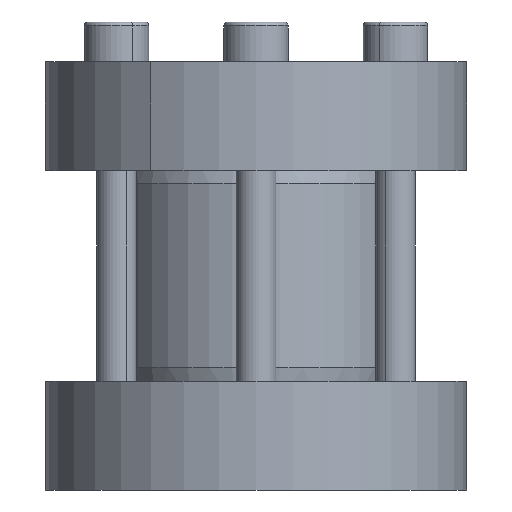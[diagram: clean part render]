
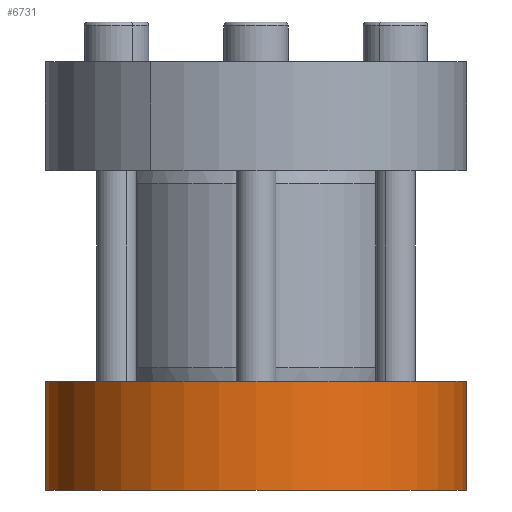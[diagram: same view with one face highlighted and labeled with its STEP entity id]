
A CAD part, front view. The second image highlights one B-rep face of the part: STEP entity #6731.
In plain terms, the highlighted cylindrical face has radius 42.5 mm (diameter 85 mm), a partial arc.
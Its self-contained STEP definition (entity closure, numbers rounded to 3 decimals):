
#962 = AXIS2_PLACEMENT_3D ( 'NONE', #6407, #2119, #7124 ) ;
#1179 = CARTESIAN_POINT ( 'NONE',  ( -42.5, 0., 19.257 ) ) ;
#1578 = VERTEX_POINT ( 'NONE', #1179 ) ;
#1687 = CARTESIAN_POINT ( 'NONE',  ( 42.5, 0., 19.257 ) ) ;
#1749 = ORIENTED_EDGE ( 'NONE', *, *, #8082, .F. ) ;
#2119 = DIRECTION ( 'NONE',  ( 0., 0., 1. ) ) ;
#2166 = DIRECTION ( 'NONE',  ( 0., 0., -1. ) ) ;
#2243 = VERTEX_POINT ( 'NONE', #7117 ) ;
#2482 = CARTESIAN_POINT ( 'NONE',  ( 42.5, 0., -2.743 ) ) ;
#3128 = DIRECTION ( 'NONE',  ( 0., 0., 1. ) ) ;
#3605 = LINE ( 'NONE', #6634, #7182 ) ;
#3816 = DIRECTION ( 'NONE',  ( 0., 0., -1. ) ) ;
#3848 = CIRCLE ( 'NONE', #7099, 42.5 ) ;
#4218 = EDGE_CURVE ( 'NONE', #1578, #2243, #8650, .T. ) ;
#4233 = DIRECTION ( 'NONE',  ( 0., 0., -1. ) ) ;
#4878 = VECTOR ( 'NONE', #2166, 1000. ) ;
#5718 = VERTEX_POINT ( 'NONE', #1687 ) ;
#5824 = VERTEX_POINT ( 'NONE', #2482 ) ;
#5868 = CYLINDRICAL_SURFACE ( 'NONE', #6491, 42.5 ) ;
#6407 = CARTESIAN_POINT ( 'NONE',  ( 0., 0., -2.743 ) ) ;
#6456 = CARTESIAN_POINT ( 'NONE',  ( -42.5, 0., 19.257 ) ) ;
#6491 = AXIS2_PLACEMENT_3D ( 'NONE', #9237, #4233, #8533 ) ;
#6603 = ORIENTED_EDGE ( 'NONE', *, *, #6931, .F. ) ;
#6634 = CARTESIAN_POINT ( 'NONE',  ( 42.5, 0., 19.257 ) ) ;
#6731 = ADVANCED_FACE ( 'NONE', ( #6792 ), #5868, .T. ) ;
#6792 = FACE_OUTER_BOUND ( 'NONE', #8677, .T. ) ;
#6873 = ORIENTED_EDGE ( 'NONE', *, *, #9143, .T. ) ;
#6931 = EDGE_CURVE ( 'NONE', #1578, #5718, #3848, .T. ) ;
#7099 = AXIS2_PLACEMENT_3D ( 'NONE', #7402, #3128, #8129 ) ;
#7117 = CARTESIAN_POINT ( 'NONE',  ( -42.5, 0., -2.743 ) ) ;
#7124 = DIRECTION ( 'NONE',  ( 1., 0., 0. ) ) ;
#7153 = ORIENTED_EDGE ( 'NONE', *, *, #4218, .T. ) ;
#7182 = VECTOR ( 'NONE', #3816, 1000. ) ;
#7402 = CARTESIAN_POINT ( 'NONE',  ( 0., 0., 19.257 ) ) ;
#8082 = EDGE_CURVE ( 'NONE', #5718, #5824, #3605, .T. ) ;
#8129 = DIRECTION ( 'NONE',  ( 1., 0., 0. ) ) ;
#8533 = DIRECTION ( 'NONE',  ( -1., 0., 0. ) ) ;
#8650 = LINE ( 'NONE', #6456, #4878 ) ;
#8677 = EDGE_LOOP ( 'NONE', ( #1749, #6603, #7153, #6873 ) ) ;
#9143 = EDGE_CURVE ( 'NONE', #2243, #5824, #9227, .T. ) ;
#9227 = CIRCLE ( 'NONE', #962, 42.5 ) ;
#9237 = CARTESIAN_POINT ( 'NONE',  ( 0., 0., 19.257 ) ) ;
